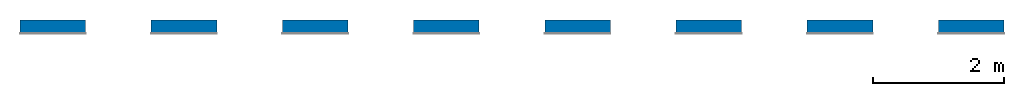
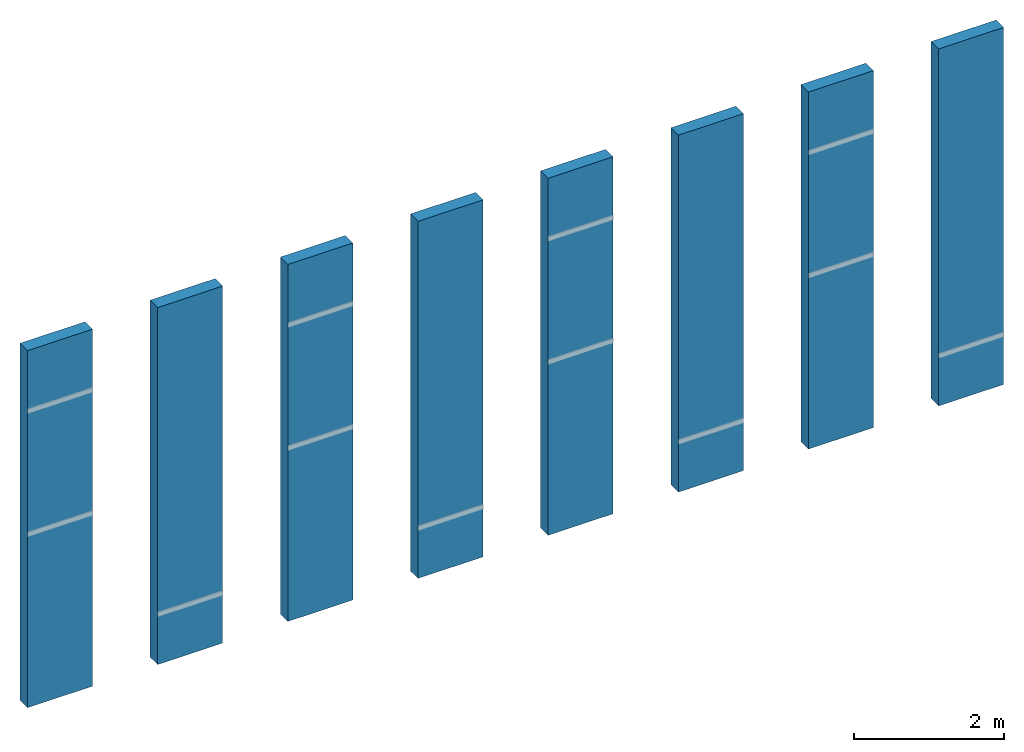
# One storey, part 1 of 2: 8 walls.
"""IFC4 building model written with IfcOpenShell, lengths in millimetres."""

from ifc_helpers import new_model, entity, si_unit, converted_unit, derived_unit, direction, frame, origin, place, context, subcontext, project, spatial, indexed_curve, outline, extrude, material, type_object, element, save


model = new_model("IFC4")

# Units and contexts
model_context = context("Model", 3, precision=0.01, world=origin(), true_north=direction((6.123031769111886e-17, 1.0)))
body_context = subcontext(model_context, "Body", "Model", "MODEL_VIEW")
ifc_project = project(units=[si_unit("LENGTHUNIT", "METRE", prefix="MILLI"), si_unit("AREAUNIT", "SQUARE_METRE"), si_unit("VOLUMEUNIT", "CUBIC_METRE"), converted_unit("PLANEANGLEUNIT", "DEGREE", entity("IfcPlaneAngleMeasure", 0.017453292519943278), si_unit("PLANEANGLEUNIT", "RADIAN"), dimensions=[0, 0, 0, 0, 0, 0, 0]), si_unit("MASSUNIT", "GRAM", prefix="KILO"), derived_unit("MASSDENSITYUNIT", [(si_unit("MASSUNIT", "GRAM", prefix="KILO"), 1), (si_unit("LENGTHUNIT", "METRE"), -3)]), derived_unit("IONCONCENTRATIONUNIT", [(si_unit("MASSUNIT", "GRAM", prefix="KILO"), 1), (si_unit("LENGTHUNIT", "METRE"), -3)]), derived_unit("MOMENTOFINERTIAUNIT", [(si_unit("LENGTHUNIT", "METRE"), 4)]), si_unit("TIMEUNIT", "SECOND"), si_unit("FREQUENCYUNIT", "HERTZ"), si_unit("THERMODYNAMICTEMPERATUREUNIT", "DEGREE_CELSIUS"), derived_unit("THERMALTRANSMITTANCEUNIT", [(si_unit("MASSUNIT", "GRAM", prefix="KILO"), 1), (si_unit("THERMODYNAMICTEMPERATUREUNIT", "KELVIN"), -1), (si_unit("TIMEUNIT", "SECOND"), -3)]), derived_unit("THERMALCONDUCTANCEUNIT", [(si_unit("MASSUNIT", "GRAM", prefix="KILO"), 1), (si_unit("THERMODYNAMICTEMPERATUREUNIT", "KELVIN"), -1), (si_unit("TIMEUNIT", "SECOND"), -3), (si_unit("LENGTHUNIT", "METRE"), 1)]), derived_unit("VOLUMETRICFLOWRATEUNIT", [(si_unit("LENGTHUNIT", "METRE", prefix="DECI"), 3), (si_unit("TIMEUNIT", "SECOND"), -1)]), derived_unit("MASSFLOWRATEUNIT", [(si_unit("MASSUNIT", "GRAM", prefix="KILO"), 1), (si_unit("TIMEUNIT", "SECOND"), -1)]), derived_unit("ROTATIONALFREQUENCYUNIT", [(si_unit("TIMEUNIT", "SECOND"), -1)]), si_unit("ELECTRICCURRENTUNIT", "AMPERE"), si_unit("ELECTRICVOLTAGEUNIT", "VOLT"), si_unit("POWERUNIT", "WATT"), si_unit("FORCEUNIT", "NEWTON", prefix="KILO"), si_unit("ILLUMINANCEUNIT", "LUX"), si_unit("LUMINOUSFLUXUNIT", "LUMEN"), si_unit("LUMINOUSINTENSITYUNIT", "CANDELA"), si_unit("ENERGYUNIT", "JOULE"), derived_unit("USERDEFINED", [(si_unit("MASSUNIT", "GRAM", prefix="KILO"), -1), (si_unit("LENGTHUNIT", "METRE"), -2), (si_unit("TIMEUNIT", "SECOND"), 3), (si_unit("LUMINOUSFLUXUNIT", "LUMEN"), 1)]), derived_unit("USERDEFINED", [(si_unit("MASSUNIT", "GRAM", prefix="KILO"), 1), (si_unit("TIMEUNIT", "SECOND"), -3), (si_unit("LENGTHUNIT", "METRE"), 3), (si_unit("ELECTRICCURRENTUNIT", "AMPERE"), -2)]), derived_unit("SOUNDPOWERUNIT", [(si_unit("MASSUNIT", "GRAM", prefix="KILO"), 1), (si_unit("TIMEUNIT", "SECOND"), -3), (si_unit("LENGTHUNIT", "METRE"), 2)]), derived_unit("SOUNDPRESSUREUNIT", [(si_unit("MASSUNIT", "GRAM", prefix="KILO"), 1), (si_unit("LENGTHUNIT", "METRE"), -1), (si_unit("TIMEUNIT", "SECOND"), -2)]), derived_unit("LINEARVELOCITYUNIT", [(si_unit("LENGTHUNIT", "METRE"), 1), (si_unit("TIMEUNIT", "SECOND"), -1)]), si_unit("PRESSUREUNIT", "PASCAL"), derived_unit("USERDEFINED", [(si_unit("MASSUNIT", "GRAM", prefix="KILO"), 1), (si_unit("LENGTHUNIT", "METRE"), -2), (si_unit("TIMEUNIT", "SECOND"), -2)]), derived_unit("LINEARFORCEUNIT", [(si_unit("MASSUNIT", "GRAM", prefix="KILO"), 1), (si_unit("TIMEUNIT", "SECOND"), -2)]), derived_unit("PLANARFORCEUNIT", [(si_unit("MASSUNIT", "GRAM", prefix="KILO"), 1), (si_unit("LENGTHUNIT", "METRE"), -1), (si_unit("TIMEUNIT", "SECOND"), -2)]), derived_unit("SPECIFICHEATCAPACITYUNIT", [(si_unit("THERMODYNAMICTEMPERATUREUNIT", "KELVIN"), -1), (si_unit("LENGTHUNIT", "METRE"), 2), (si_unit("TIMEUNIT", "SECOND"), -2)]), derived_unit("HEATFLUXDENSITYUNIT", [(si_unit("MASSUNIT", "GRAM", prefix="KILO"), 1), (si_unit("TIMEUNIT", "SECOND"), -3)]), derived_unit("HEATINGVALUEUNIT", [(si_unit("LENGTHUNIT", "METRE"), 2), (si_unit("TIMEUNIT", "SECOND"), -2)]), derived_unit("VAPORPERMEABILITYUNIT", [(si_unit("LENGTHUNIT", "METRE"), -1), (si_unit("TIMEUNIT", "SECOND"), 1)]), derived_unit("DYNAMICVISCOSITYUNIT", [(si_unit("MASSUNIT", "GRAM", prefix="KILO"), 1), (si_unit("TIMEUNIT", "SECOND"), -1), (si_unit("LENGTHUNIT", "METRE"), -1)]), derived_unit("THERMALEXPANSIONCOEFFICIENTUNIT", [(si_unit("THERMODYNAMICTEMPERATUREUNIT", "KELVIN"), -1)]), derived_unit("MODULUSOFELASTICITYUNIT", [(si_unit("MASSUNIT", "GRAM", prefix="KILO"), 1), (si_unit("LENGTHUNIT", "METRE"), -1), (si_unit("TIMEUNIT", "SECOND"), -2)]), derived_unit("ISOTHERMALMOISTURECAPACITYUNIT", [(si_unit("MASSUNIT", "GRAM", prefix="KILO"), -1), (si_unit("LENGTHUNIT", "METRE"), 3)]), derived_unit("MOISTUREDIFFUSIVITYUNIT", [(si_unit("TIMEUNIT", "SECOND"), -1), (si_unit("LENGTHUNIT", "METRE"), 2)]), derived_unit("AREADENSITYUNIT", [(si_unit("MASSUNIT", "GRAM", prefix="KILO"), 1), (si_unit("LENGTHUNIT", "METRE"), 2)]), derived_unit("MASSPERLENGTHUNIT", [(si_unit("MASSUNIT", "GRAM", prefix="KILO"), 1), (si_unit("LENGTHUNIT", "METRE"), -1)]), derived_unit("THERMALRESISTANCEUNIT", [(si_unit("MASSUNIT", "GRAM", prefix="KILO"), -1), (si_unit("TIMEUNIT", "SECOND"), 3), (si_unit("THERMODYNAMICTEMPERATUREUNIT", "KELVIN"), 1)]), derived_unit("ACCELERATIONUNIT", [(si_unit("LENGTHUNIT", "METRE"), 1), (si_unit("TIMEUNIT", "SECOND"), -2)]), derived_unit("ANGULARVELOCITYUNIT", [(si_unit("TIMEUNIT", "SECOND"), -1), (si_unit("PLANEANGLEUNIT", "RADIAN"), 1)]), derived_unit("LINEARSTIFFNESSUNIT", [(si_unit("MASSUNIT", "GRAM", prefix="KILO"), 1), (si_unit("TIMEUNIT", "SECOND"), -2)]), derived_unit("WARPINGCONSTANTUNIT", [(si_unit("LENGTHUNIT", "METRE"), 6)]), derived_unit("LINEARMOMENTUNIT", [(si_unit("MASSUNIT", "GRAM", prefix="KILO"), 1), (si_unit("LENGTHUNIT", "METRE"), 1), (si_unit("TIMEUNIT", "SECOND"), -2)]), derived_unit("TORQUEUNIT", [(si_unit("MASSUNIT", "GRAM", prefix="KILO"), 1), (si_unit("LENGTHUNIT", "METRE"), 2), (si_unit("TIMEUNIT", "SECOND"), -2)])], contexts=[model_context])

# Site, building, storey
site_placement = place(None, origin())
site = spatial("IfcSite", under=ifc_project, at=site_placement, Name="Default", CompositionType="ELEMENT")
building_placement = place(site_placement, origin())
building = spatial("IfcBuilding", under=site, at=building_placement, CompositionType="ELEMENT")
storey_placement = place(building_placement, origin())
storey = spatial("IfcBuildingStorey", under=building, at=storey_placement, Name="Level 1", CompositionType="ELEMENT", Elevation=0.0)

# Walls
ifc_material = material(Name="<Unnamed>")
wall_type = type_object("IfcWallType", Name="Basic Wall:Wall 1", PredefinedType="STANDARD")
wall_1_placement = place(storey_placement, frame((2507.4095551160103, 3599.301045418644, 0.0)))
element("IfcWall", 1, at=wall_1_placement, inside=storey, type_object=wall_type, material=ifc_material, Name="Basic Wall:Wall 1", ObjectType="Basic Wall:Wall 1", PredefinedType="NOTDEFINED", context=body_context, shape_type="SweptSolid", body=[
    extrude(outline(indexed_curve([(1000.0000000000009, 100.00000000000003), (2.147918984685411e-13, 100.0), (3.2664166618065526e-13, -100.0), (1000.0000000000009, -99.99999999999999), (1000.0000000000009, 100.00000000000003)], self_intersect=False)), origin(), (0.0, 0.0, 1.0), 5800.000000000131),
])
wall_2_placement = place(storey_placement, frame((4507.409555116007, 3599.301045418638, 0.0)))
element("IfcWall", 2, at=wall_2_placement, inside=storey, type_object=wall_type, material=ifc_material, Name="Basic Wall:Wall 1", ObjectType="Basic Wall:Wall 1", PredefinedType="NOTDEFINED", context=body_context, shape_type="SweptSolid", body=[
    extrude(outline(indexed_curve([(999.9999999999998, 100.00000000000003), (-3.2664166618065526e-13, 100.0), (-7.562254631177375e-13, -100.0), (999.9999999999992, -99.99999999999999), (999.9999999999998, 100.00000000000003)], self_intersect=False)), origin(), (0.0, 0.0, 1.0), 5800.000000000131),
])
wall_3_placement = place(storey_placement, frame((6507.409555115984, 3599.3010454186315, 0.0)))
element("IfcWall", 3, at=wall_3_placement, inside=storey, type_object=wall_type, material=ifc_material, Name="Basic Wall:Wall 1", ObjectType="Basic Wall:Wall 1", PredefinedType="NOTDEFINED", context=body_context, shape_type="SweptSolid", body=[
    extrude(outline(indexed_curve([(1000.0000000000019, 100.00000000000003), (7.562254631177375e-13, 100.0), (3.2664166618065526e-13, -100.0), (1000.0000000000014, -99.99999999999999), (1000.0000000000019, 100.00000000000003)], self_intersect=False)), origin(), (0.0, 0.0, 1.0), 5800.000000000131),
])
wall_4_placement = place(storey_placement, frame((8507.40955511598, 3599.301045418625, 0.0)))
element("IfcWall", 4, at=wall_4_placement, inside=storey, type_object=wall_type, material=ifc_material, Name="Basic Wall:Wall 1", ObjectType="Basic Wall:Wall 1", PredefinedType="NOTDEFINED", context=body_context, shape_type="SweptSolid", body=[
    extrude(outline(indexed_curve([(1000.0000000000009, 100.00000000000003), (-3.2664166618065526e-13, 100.0), (3.2664166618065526e-13, -100.0), (1000.0000000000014, -99.99999999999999), (1000.0000000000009, 100.00000000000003)], self_intersect=False)), origin(), (0.0, 0.0, 1.0), 5800.000000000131),
])
for number, where, name in (
    (5, (10507.409555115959, 3599.3010454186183, 0.0), "Basic Wall:Wall 1"),
    (6, (12507.409555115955, 3599.301045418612, 0.0), "Basic Wall:Wall 1"),
    (7, (14507.409555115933, 3599.3010454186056, 0.0), "Basic Wall:Wall 1"),
    (8, (16507.40955511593, 3599.3010454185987, 0.0), "Basic Wall:Wall 1"),
):
    element("IfcWall", number, at=place(storey_placement, frame(where)), inside=storey, type_object=wall_type, material=ifc_material, Name=name, ObjectType="Basic Wall:Wall 1", PredefinedType="NOTDEFINED", context=body_context, shape_type="SweptSolid", body=[
        extrude(outline(indexed_curve([(999.9999999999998, 100.00000000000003), (-3.2664166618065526e-13, 100.0), (3.2664166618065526e-13, -100.0), (1000.0000000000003, -99.99999999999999), (999.9999999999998, 100.00000000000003)], self_intersect=False)), origin(), (0.0, 0.0, 1.0), 5800.000000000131),
    ])

save(model, "model.ifc")
